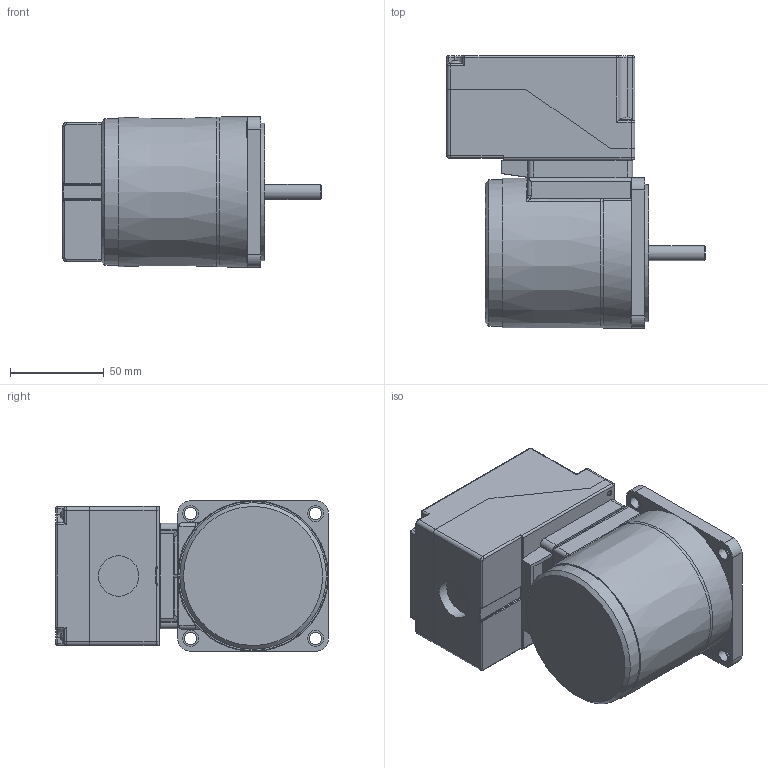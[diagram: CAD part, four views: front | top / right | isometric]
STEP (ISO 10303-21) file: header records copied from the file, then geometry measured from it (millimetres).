
FILE_DESCRIPTION(/* description */ (''),/* implementation_level */ '2;1');
FILE_NAME(/* name */ 'E:\도면작업\2016\0704) 미주향 SG 도면\3D MOTOR\TERMINAL BOX TYPE\INDUCTION TERMINAL BOX\SG8I25S_-T2.stp',/* time_stamp */ '2017-01-23T18:15:19+09:00',/* author */ ('jy-jung'),/* organization */ (''),/* preprocessor_version */ 'ST-DEVELOPER v15.6',/* originating_system */ 'Autodesk Inventor 2015',/* authorisation */ '');
FILE_SCHEMA (('AUTOMOTIVE_DESIGN { 1 0 10303 214 3 1 1 }'));
Length unit declared in the file: millimetre
Products named in the file (1): 부품4
Bounding box: 137.4 x 145 x 80 mm (x, y, z)
Volume: 568471.4 mm3; surface area: 118601.9 mm2
Topology: 1 solids, 5 shells, 844 faces, 2228 edges, 1421 vertices
Faces by surface type: plane 440, cylinder 294, bspline 48, torus 30, cone 20, sphere 12
Full cylindrical faces by diameter (mm): 2.5 x4, 3 x4, 3.2 x3, 3.4 x1, 4.2 x1, 4.5 x8, 5.5 x8, 6.5 x4, 6.9 x4, 8 x1, 8.5 x4, 21.5 x1, 34 x1, 73 x1, 78 x1
Entity records: 27994 total; most frequent: CARTESIAN_POINT 6528, DIRECTION 4278, ORIENTED_EDGE 4228, EDGE_CURVE 2114, AXIS2_PLACEMENT_3D 1510, VERTEX_POINT 1408, LINE 1258, VECTOR 1258
